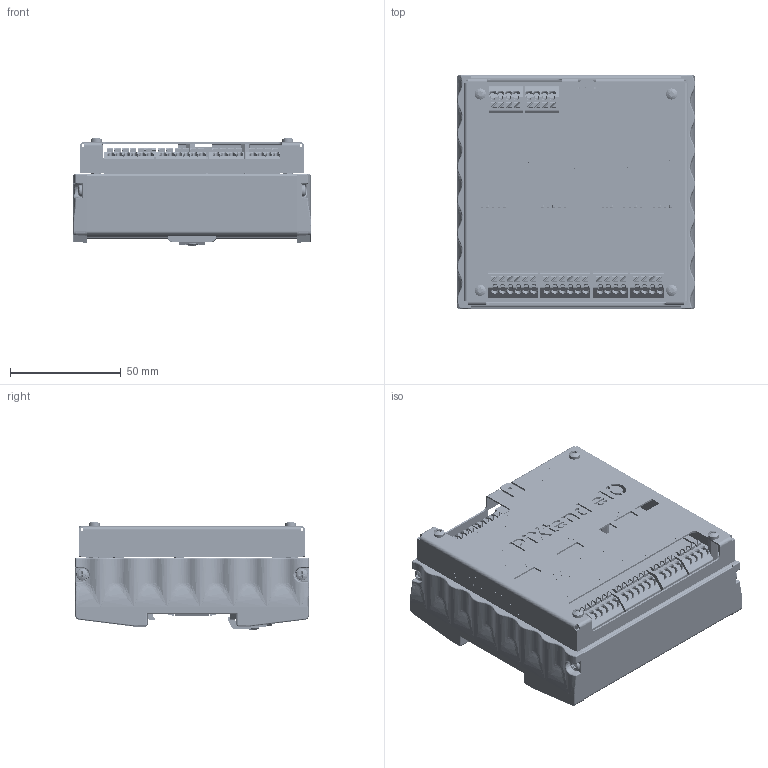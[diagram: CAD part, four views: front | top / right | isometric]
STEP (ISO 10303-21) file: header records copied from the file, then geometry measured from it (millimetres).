
FILE_DESCRIPTION (( 'STEP AP214' ), '1' );
FILE_NAME ('PiXtend_eIO_Digital_One_komplett_Stand15052020.STEP', '2020-05-15T13:17:04', ( '' ), ( '' ), 'SwSTEP 2.0', 'SolidWorks 2020', '' );
FILE_SCHEMA (( 'AUTOMOTIVE_DESIGN' ));
Length unit declared in the file: millimetre
Products named in the file (16): PiXtend_eIO_Digital_One_komplett_Stand15052020; 1008383_3d-2; WAGO_6pol_250206; Abstbolz_AGundIG_Abstandsbolzen M2,5 , 5mm 6kt, 6mm AG, SW4; Abstbolz_IGundIG_Abstandsbolzen M2,5, 15mm 6kt, 4; SHR Z KA30x8 WN 1412 mG_3Dsym; User Library-DIPSWITCH_DA8_8pts; PPP5c86766a48052_ohne E-Komponenten; Raste_1008396_3d; SHR Z B2,9x6,5 DIN ISO 7049_3DSYM; Bopla_Gehäuse_ARP_105-31-105; DIN7985_Innensechsrund_M2,5x5; Bopla_Seitenteil_AR_105-31-KS_2-2; Bopla_Seitenteile_AR_105-31-KS_2-2; PiXtend_eIO_Digital_One_Abdeckung
Assembly tree (34 placements, depth 4):
  PiXtend_eIO_Digital_One_komplett_Stand15052020
    Bopla_Gehäuse_ARP_105-31-105
    Bopla_Seitenteile_AR_105-31-KS_2-2
      1008383_3d-2
        Bopla_Seitenteil_AR_105-31-KS_2-2
      1008383_3d-2
        Bopla_Seitenteil_AR_105-31-KS_2-2
      Raste_1008396_3d
      SHR Z KA30x8 WN 1412 mG_3Dsym  x4
      SHR Z B2,9x6,5 DIN ISO 7049_3DSYM
    PPP5c86766a48052_ohne E-Komponenten
    PiXtend_eIO_Digital_One_Abdeckung
    Abstbolz_IGundIG_Abstandsbolzen M2,5, 15mm 6kt, 4  x6
    Abstbolz_AGundIG_Abstandsbolzen M2,5 , 5mm 6kt, 6mm AG, SW4  x6
    WAGO_6pol_250206  x2
    User Library-DIPSWITCH_DA8_8pts  x2
    DIN7985_Innensechsrund_M2,5x5  x4
Bounding box: 107.07 x 105.4 x 48.81 mm (x, y, z)
Volume: 104613.3 mm3; surface area: 129454 mm2
Topology: 55 solids, 64 shells, 11579 faces, 30912 edges, 20263 vertices
Faces by surface type: plane 6900, bspline 3465, cylinder 970, cone 231, sphere 9, torus 4
Full cylindrical faces by diameter (mm): 0.6 x9, 1.5 x1, 2.1 x18, 2.4 x2, 2.5 x16, 2.8 x4, 3.2 x4, 5 x4, 5.3 x4, 5.6 x1
Entity records: 571611 total; most frequent: CARTESIAN_POINT 245682, ORIENTED_EDGE 54281, DIRECTION 35386, EDGE_CURVE 27143, VECTOR 18792, LINE 18792, VERTEX_POINT 17934, EDGE_LOOP 11162
